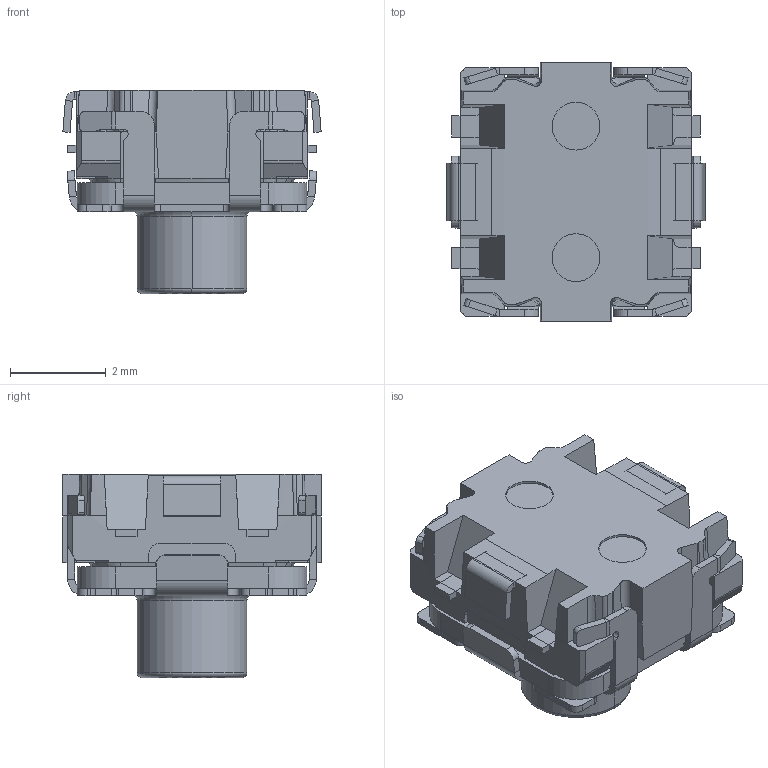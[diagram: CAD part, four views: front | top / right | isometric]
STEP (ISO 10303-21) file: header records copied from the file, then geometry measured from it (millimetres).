
FILE_DESCRIPTION((''),'2;1');
FILE_NAME('JQH5354P-D0434-01G-1-158_ASM','2026-07-20T18:42:40',('Admin'),(''),'CREO PARAMETRIC BY PTC INC, 2019224','CREO PARAMETRIC BY PTC INC, 2019224','');
FILE_SCHEMA(('AUTOMOTIVE_DESIGN { 1 0 10303 214 1 1 1 1 }'));
Length unit declared in the file: millimetre
Products named in the file (2): JQH5354P-D0434-01G-1-158_01; JQH5354P-D0434-01G-1-158_ASM
Assembly tree (1 placements, depth 2):
  JQH5354P-D0434-01G-1-158_ASM
    JQH5354P-D0434-01G-1-158_01
Bounding box: 5.4 x 5.4 x 4.25 mm (x, y, z)
Volume: 19.1 mm3; surface area: 296.8 mm2
Topology: 1 solids, 4 shells, 766 faces, 2010 edges, 1250 vertices
Faces by surface type: plane 439, cylinder 245, cone 42, sphere 20, torus 14, bspline 6
Entity records: 29919 total; most frequent: CARTESIAN_POINT 5249, ORIENTED_EDGE 3902, DIRECTION 3802, EDGE_CURVE 2005, PRESENTATION_STYLE_ASSIGNMENT 1575, STYLED_ITEM 1575, VECTOR 1332, LINE 1332
